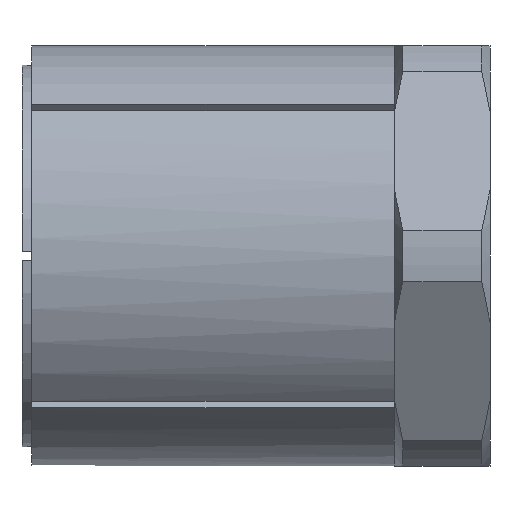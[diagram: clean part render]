
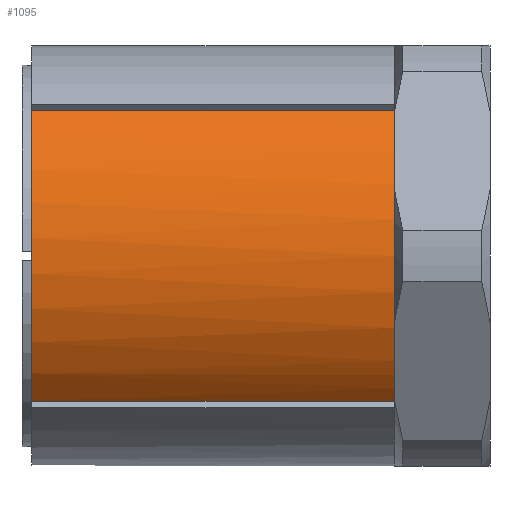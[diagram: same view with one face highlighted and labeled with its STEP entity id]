
A CAD part, front view. The second image highlights one B-rep face of the part: STEP entity #1095.
In plain terms, the highlighted cylindrical face has radius 11 mm (diameter 22 mm), a partial arc.
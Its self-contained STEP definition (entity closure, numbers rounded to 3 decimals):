
#169 = CYLINDRICAL_SURFACE ( 'NONE', #2673, 11. ) ;
#171 = FACE_OUTER_BOUND ( 'NONE', #948, .T. ) ;
#330 = LINE ( 'NONE', #1823, #337 ) ;
#334 = LINE ( 'NONE', #1828, #339 ) ;
#336 = CIRCLE ( 'NONE', #2748, 11. ) ;
#337 = VECTOR ( 'NONE', #1824, 1000. ) ;
#339 = VECTOR ( 'NONE', #1829, 1000. ) ;
#340 = CIRCLE ( 'NONE', #2753, 11. ) ;
#342 = CIRCLE ( 'NONE', #2755, 11. ) ;
#389 = CIRCLE ( 'NONE', #2771, 11. ) ;
#495 = ORIENTED_EDGE ( 'NONE', *, *, #2464, .F. ) ;
#520 = ORIENTED_EDGE ( 'NONE', *, *, #1285, .T. ) ;
#559 = ORIENTED_EDGE ( 'NONE', *, *, #1288, .T. ) ;
#606 = ORIENTED_EDGE ( 'NONE', *, *, #1289, .T. ) ;
#609 = ORIENTED_EDGE ( 'NONE', *, *, #1290, .T. ) ;
#844 = ORIENTED_EDGE ( 'NONE', *, *, #1287, .T. ) ;
#948 = EDGE_LOOP ( 'NONE', ( #606, #559, #495, #609, #520, #844 ) ) ;
#1095 = ADVANCED_FACE ( 'NONE', ( #171 ), #169, .T. ) ;
#1285 = EDGE_CURVE ( 'NONE', #1338, #1337, #336, .T. ) ;
#1287 = EDGE_CURVE ( 'NONE', #1337, #1342, #340, .T. ) ;
#1288 = EDGE_CURVE ( 'NONE', #1341, #1340, #330, .T. ) ;
#1289 = EDGE_CURVE ( 'NONE', #1342, #1341, #342, .T. ) ;
#1290 = EDGE_CURVE ( 'NONE', #1339, #1338, #334, .T. ) ;
#1337 = VERTEX_POINT ( 'NONE', #1885 ) ;
#1338 = VERTEX_POINT ( 'NONE', #1886 ) ;
#1339 = VERTEX_POINT ( 'NONE', #1887 ) ;
#1340 = VERTEX_POINT ( 'NONE', #1888 ) ;
#1341 = VERTEX_POINT ( 'NONE', #1889 ) ;
#1342 = VERTEX_POINT ( 'NONE', #1890 ) ;
#1500 = CARTESIAN_POINT ( 'NONE',  ( 0., 0., 0. ) ) ;
#1502 = DIRECTION ( 'NONE',  ( 0., 0., 1. ) ) ;
#1503 = DIRECTION ( 'NONE',  ( -1., 0., 0. ) ) ;
#1804 = CARTESIAN_POINT ( 'NONE',  ( 19., 0., 0. ) ) ;
#1813 = CARTESIAN_POINT ( 'NONE',  ( 19., 0., 0. ) ) ;
#1814 = DIRECTION ( 'NONE',  ( -1., 0., 0. ) ) ;
#1815 = DIRECTION ( 'NONE',  ( 0., 0., 1. ) ) ;
#1817 = CARTESIAN_POINT ( 'NONE',  ( 19., 0., 0. ) ) ;
#1821 = DIRECTION ( 'NONE',  ( -1., 0., 0. ) ) ;
#1822 = DIRECTION ( 'NONE',  ( 0., 0., 1. ) ) ;
#1823 = CARTESIAN_POINT ( 'NONE',  ( 0., -7.953, 7.599 ) ) ;
#1824 = DIRECTION ( 'NONE',  ( -1., 0., 0. ) ) ;
#1826 = DIRECTION ( 'NONE',  ( -1., 0., 0. ) ) ;
#1827 = DIRECTION ( 'NONE',  ( 0., 0., 1. ) ) ;
#1828 = CARTESIAN_POINT ( 'NONE',  ( 0., -7.953, -7.599 ) ) ;
#1829 = DIRECTION ( 'NONE',  ( 1., 0., 0. ) ) ;
#1885 = CARTESIAN_POINT ( 'NONE',  ( 19., -9.526, -5.5 ) ) ;
#1886 = CARTESIAN_POINT ( 'NONE',  ( 19., -7.953, -7.599 ) ) ;
#1887 = CARTESIAN_POINT ( 'NONE',  ( 0., -7.953, -7.599 ) ) ;
#1888 = CARTESIAN_POINT ( 'NONE',  ( 0., -7.953, 7.599 ) ) ;
#1889 = CARTESIAN_POINT ( 'NONE',  ( 19., -7.953, 7.599 ) ) ;
#1890 = CARTESIAN_POINT ( 'NONE',  ( 19., -9.526, 5.5 ) ) ;
#2029 = CARTESIAN_POINT ( 'NONE',  ( 0., 0., 0. ) ) ;
#2042 = DIRECTION ( 'NONE',  ( -1., 0., 0. ) ) ;
#2043 = DIRECTION ( 'NONE',  ( 0., 0., 1. ) ) ;
#2464 = EDGE_CURVE ( 'NONE', #1339, #1340, #389, .T. ) ;
#2673 = AXIS2_PLACEMENT_3D ( 'NONE', #1500, #1503, #1502 ) ;
#2748 = AXIS2_PLACEMENT_3D ( 'NONE', #1813, #1814, #1815 ) ;
#2753 = AXIS2_PLACEMENT_3D ( 'NONE', #1804, #1821, #1822 ) ;
#2755 = AXIS2_PLACEMENT_3D ( 'NONE', #1817, #1826, #1827 ) ;
#2771 = AXIS2_PLACEMENT_3D ( 'NONE', #2029, #2042, #2043 ) ;
